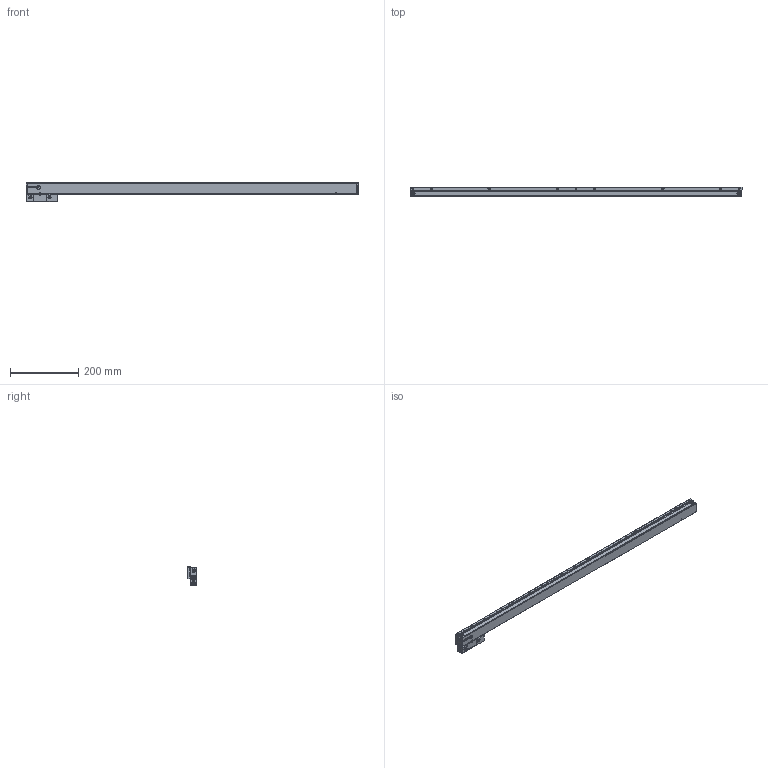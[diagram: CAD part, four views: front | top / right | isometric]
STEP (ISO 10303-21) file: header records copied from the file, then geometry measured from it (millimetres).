
FILE_DESCRIPTION(('Creo Elements/Direct Modeling STEP Export'),'2;1');
FILE_NAME('Regla SV2-870-T-V01A.stp','2022-11-30T 8:46:18',(''),(''),'Creo Elements/Direct Modeling STEP processor for AP214 (Solid Model)','Creo Elements/Direct Modeling 20.4A 18-Oct-2021 (C) Parametric Technology GmbH','');
FILE_SCHEMA(('AUTOMOTIVE_DESIGN { 1 0 10303 214 1 1 1 1 }'));
Length unit declared in the file: millimetre
Products named in the file (4): SOPORTE_SV3-870; REGLA_SV2-870-T; CABEZA_ROSCADA_REGLA_SV2-T; REGLA_SV2-870-T-V01A
Assembly tree (3 placements, depth 2):
  REGLA_SV2-870-T-V01A
    CABEZA_ROSCADA_REGLA_SV2-T
    REGLA_SV2-870-T
    SOPORTE_SV3-870
Bounding box: 975 x 28 x 56.2 mm (x, y, z)
Volume: 770834.4 mm3; surface area: 278892.4 mm2
Topology: 3 solids, 24 shells, 2129 faces, 6019 edges, 3942 vertices
Faces by surface type: plane 1040, cylinder 750, cone 216, bspline 90, torus 26, sphere 4, extrusion 3
Entity records: 79473 total; most frequent: CARTESIAN_POINT 19142, ORIENTED_EDGE 11994, DIRECTION 10114, EDGE_CURVE 5997, VERTEX_POINT 3942, AXIS2_PLACEMENT_3D 3401, VECTOR 3312, LINE 3309
